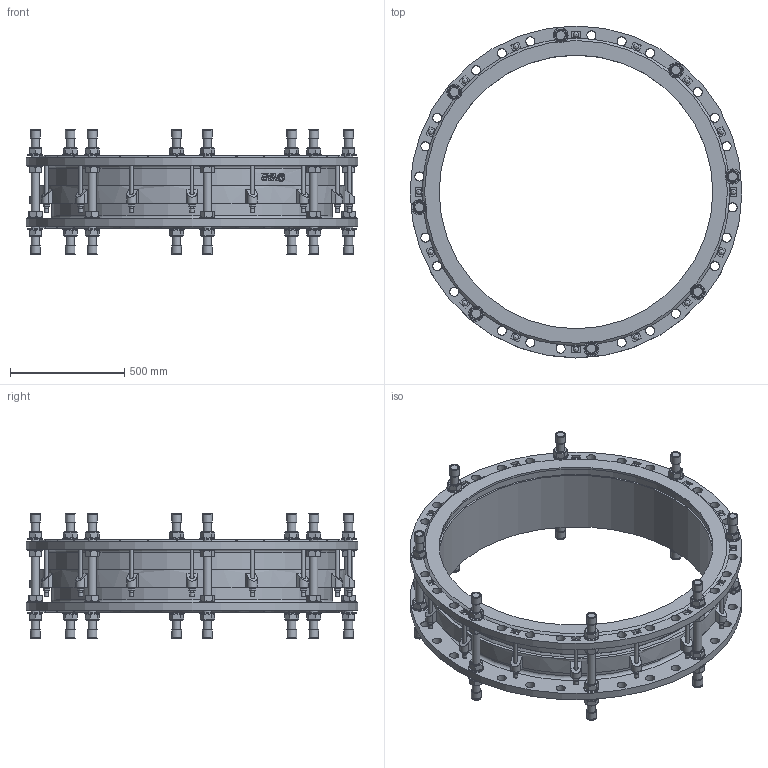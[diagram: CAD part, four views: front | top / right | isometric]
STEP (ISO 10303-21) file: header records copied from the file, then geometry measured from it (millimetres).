
FILE_DESCRIPTION(('STEP AP242'), '1');
FILE_NAME('Ìîíòàæíàÿ âñòàâêà', '', ('UNSPECIFIED'), ('UNSPECIFIED'), 'C3D Converter', 'C3D Toolkit', '');
FILE_SCHEMA(('AP242_MANAGED_MODEL_BASED_3D_ENGINEERING_MIM_LF { 1 0 10303 442 1 1 4 }'));
Length unit declared in the file: millimetre
Products named in the file (13): ШМ.М16.310
Assembly tree (156 placements, depth 2):
  (unnamed)
    (unnamed)
    (unnamed)
    (unnamed)
    (unnamed)  x32
    (unnamed)  x32
    ШМ.М16.310  x8
    (unnamed)  x16
    (unnamed)
    (unnamed)  x16
    (unnamed)  x16
    (unnamed)  x16
    (unnamed)  x16
Bounding box: 1455 x 1455 x 552.2 mm (x, y, z)
Volume: 76113011.4 mm3; surface area: 8890826.7 mm2
Topology: 156 solids, 156 shells, 1727 faces, 3921 edges, 2489 vertices
Faces by surface type: plane 1022, cylinder 414, cone 230, torus 34, sphere 16, extrusion 11
Full cylindrical faces by diameter (mm): 16 x48, 17 x16, 18 x16, 19.2 x16, 30 x16, 36 x56, 36.543 x1, 37 x32, 40 x64, 43.2 x16, 66 x32, 1200 x2, 1228 x2, 1242 x2, 1270 x1, 1298 x1, 1312 x1, 1340 x1, 1455 x2
Entity records: 33431 total; most frequent: CARTESIAN_POINT 15285, DIRECTION 3040, ORIENTED_EDGE 2766, EDGE_CURVE 1383, AXIS2_PLACEMENT_3D 1203, VERTEX_POINT 996, EDGE_LOOP 807, VECTOR 634
